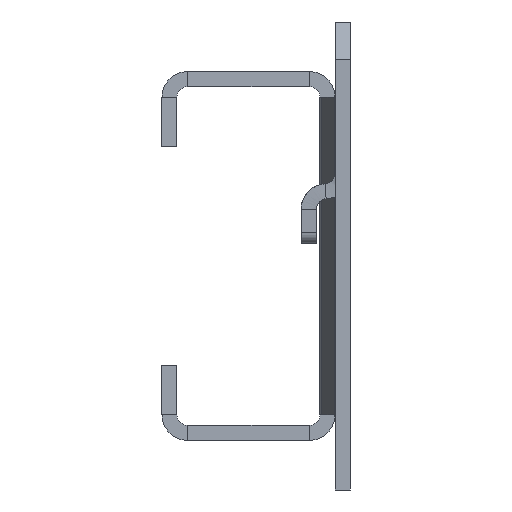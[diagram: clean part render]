
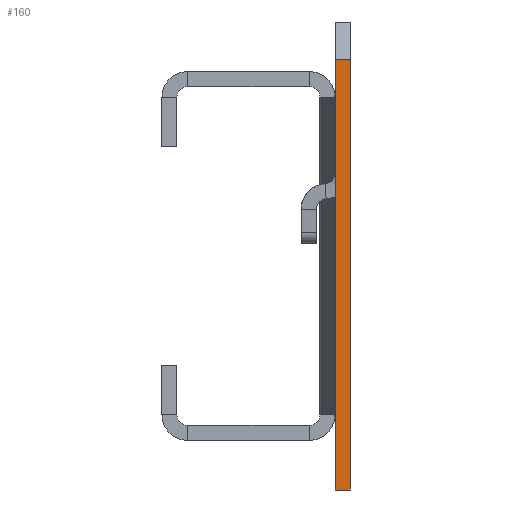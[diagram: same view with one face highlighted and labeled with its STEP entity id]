
A CAD part, left-side view. The second image highlights one B-rep face of the part: STEP entity #160.
In plain terms, the highlighted planar face has unit normal (-1, 0, 0).
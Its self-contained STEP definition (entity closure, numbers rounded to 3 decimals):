
#160=ADVANCED_FACE('',(#1676),#1678,.F.);
#1676=FACE_BOUND('',#1677,.T.);
#1677=EDGE_LOOP('',(#4917,#4918,#4919,#4920));
#1678=PLANE('',#1679);
#1679=AXIS2_PLACEMENT_3D('',#1680,#1681,#1682);
#1680=CARTESIAN_POINT('',(-184.,-4.,-42.2));
#1681=DIRECTION('',(1.,0.,0.));
#1682=DIRECTION('',(0.,0.,-1.));
#4917=ORIENTED_EDGE('',*,*,#6538,.T.);
#4918=ORIENTED_EDGE('',*,*,#6933,.T.);
#4919=ORIENTED_EDGE('',*,*,#6507,.F.);
#4920=ORIENTED_EDGE('',*,*,#6774,.T.);
#6507=EDGE_CURVE('',#7762,#7764,#7765,.T.);
#6538=EDGE_CURVE('',#7802,#7824,#7826,.T.);
#6774=EDGE_CURVE('',#7762,#7802,#8292,.T.);
#6933=EDGE_CURVE('',#7824,#7764,#8579,.T.);
#7762=VERTEX_POINT('',#10129);
#7764=VERTEX_POINT('',#10133);
#7765=LINE('',#10134,#10135);
#7802=VERTEX_POINT('',#10249);
#7824=VERTEX_POINT('',#10294);
#7826=LINE('',#10298,#10299);
#8292=LINE('',#11238,#11239);
#8579=LINE('',#11859,#11860);
#10129=CARTESIAN_POINT('',(-184.,-2.,-52.2));
#10133=CARTESIAN_POINT('',(-184.,-2.,5.));
#10134=CARTESIAN_POINT('',(-184.,-2.,-52.2));
#10135=VECTOR('',#10136,1.);
#10136=DIRECTION('',(0.,0.,1.));
#10249=CARTESIAN_POINT('',(-184.,-4.,-52.2));
#10294=CARTESIAN_POINT('',(-184.,-4.,5.));
#10298=CARTESIAN_POINT('',(-184.,-4.,-52.2));
#10299=VECTOR('',#10300,1.);
#10300=DIRECTION('',(0.,0.,1.));
#11238=CARTESIAN_POINT('',(-184.,-2.,-52.2));
#11239=VECTOR('',#11240,1.);
#11240=DIRECTION('',(0.,-1.,0.));
#11859=CARTESIAN_POINT('',(-184.,-4.,5.));
#11860=VECTOR('',#11861,1.);
#11861=DIRECTION('',(0.,1.,0.));
